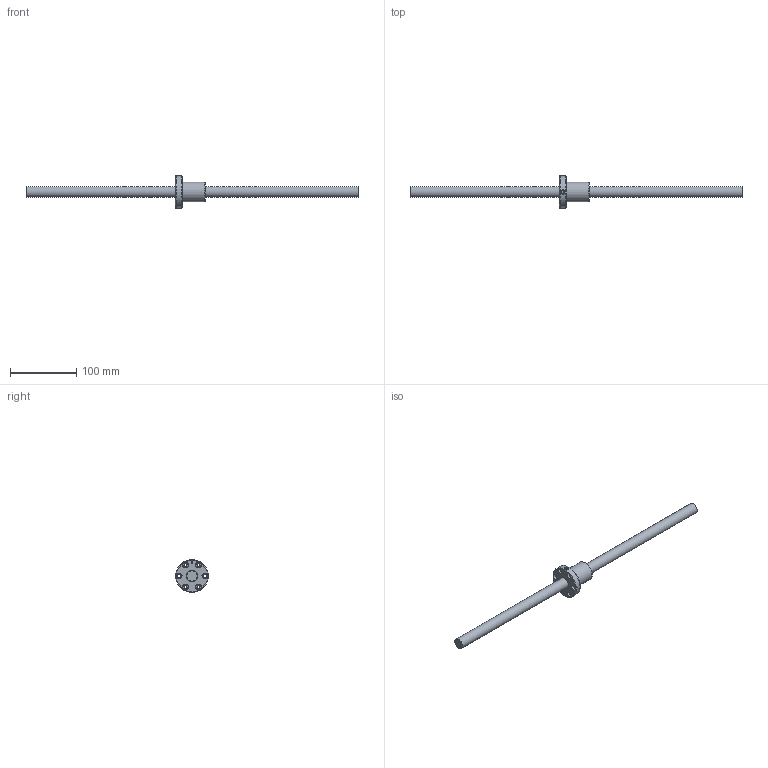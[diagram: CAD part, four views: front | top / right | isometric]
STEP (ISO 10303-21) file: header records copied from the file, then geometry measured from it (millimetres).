
FILE_DESCRIPTION (( 'STEP AP203' ), '1' );
FILE_NAME ('SFI01604N-4.step', '2024-05-16T02:27:33', ( '' ), ( '' ), 'SwSTEP 2.0', 'SolidWorks 2022', '' );
FILE_SCHEMA (( 'CONFIG_CONTROL_DESIGN' ));
Length unit declared in the file: millimetre
Products named in the file (1): SFI01604N-4
Bounding box: 500 x 49 x 49 mm (x, y, z)
Volume: 130899.7 mm3; surface area: 37123.3 mm2
Topology: 2 solids, 2 shells, 57 faces, 141 edges, 88 vertices
Faces by surface type: cylinder 24, cone 13, plane 12, bspline 5, torus 3
Full cylindrical faces by diameter (mm): 4 x1, 4.5 x6, 5 x6, 8 x6, 16 x1, 17.6 x1, 30 x1, 49 x1
Entity records: 3111 total; most frequent: CARTESIAN_POINT 2060, DIRECTION 206, ORIENTED_EDGE 148, EDGE_LOOP 102, AXIS2_PLACEMENT_3D 101, EDGE_CURVE 74, FACE_OUTER_BOUND 72, VERTEX_POINT 64
